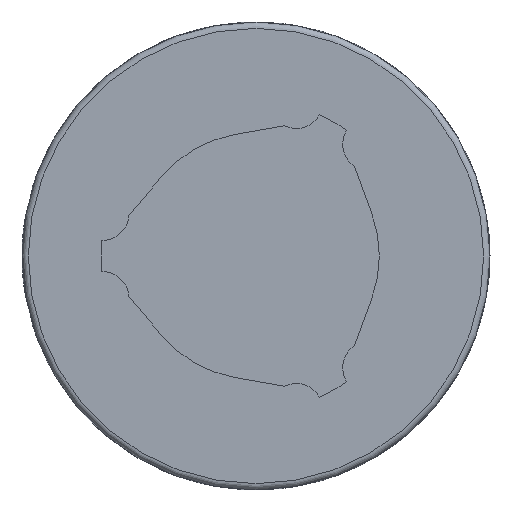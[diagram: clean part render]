
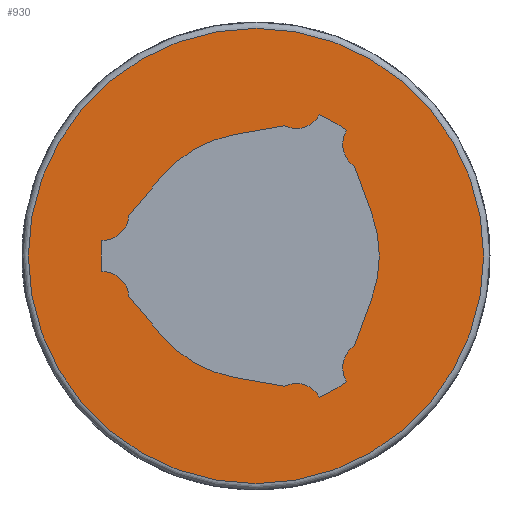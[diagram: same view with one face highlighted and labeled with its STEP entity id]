
A CAD part, left-side view. The second image highlights one B-rep face of the part: STEP entity #930.
In plain terms, the highlighted planar face has unit normal (-1, 0, 0).
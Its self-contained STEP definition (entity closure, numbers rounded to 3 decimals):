
#71=LINE('',#1439,#141);
#72=LINE('',#1448,#142);
#73=LINE('',#1452,#143);
#74=LINE('',#1460,#144);
#75=LINE('',#1464,#145);
#76=LINE('',#1472,#146);
#141=VECTOR('',#1135,1000.);
#142=VECTOR('',#1142,1000.);
#143=VECTOR('',#1145,1000.);
#144=VECTOR('',#1152,1000.);
#145=VECTOR('',#1155,1000.);
#146=VECTOR('',#1162,1000.);
#211=ORIENTED_EDGE('',*,*,#483,.F.);
#212=ORIENTED_EDGE('',*,*,#484,.T.);
#213=ORIENTED_EDGE('',*,*,#485,.F.);
#214=ORIENTED_EDGE('',*,*,#486,.T.);
#215=ORIENTED_EDGE('',*,*,#487,.F.);
#216=ORIENTED_EDGE('',*,*,#488,.T.);
#217=ORIENTED_EDGE('',*,*,#489,.T.);
#218=ORIENTED_EDGE('',*,*,#490,.T.);
#219=ORIENTED_EDGE('',*,*,#491,.F.);
#220=ORIENTED_EDGE('',*,*,#492,.T.);
#221=ORIENTED_EDGE('',*,*,#493,.F.);
#222=ORIENTED_EDGE('',*,*,#494,.T.);
#223=ORIENTED_EDGE('',*,*,#495,.T.);
#224=ORIENTED_EDGE('',*,*,#496,.T.);
#225=ORIENTED_EDGE('',*,*,#497,.F.);
#226=ORIENTED_EDGE('',*,*,#498,.T.);
#227=ORIENTED_EDGE('',*,*,#499,.F.);
#228=ORIENTED_EDGE('',*,*,#500,.T.);
#229=ORIENTED_EDGE('',*,*,#501,.T.);
#483=EDGE_CURVE('',#619,#619,#713,.T.);
#484=EDGE_CURVE('',#620,#621,#71,.T.);
#485=EDGE_CURVE('',#622,#621,#714,.T.);
#486=EDGE_CURVE('',#622,#623,#715,.T.);
#487=EDGE_CURVE('',#624,#623,#716,.T.);
#488=EDGE_CURVE('',#624,#625,#72,.T.);
#489=EDGE_CURVE('',#625,#626,#717,.T.);
#490=EDGE_CURVE('',#626,#627,#73,.T.);
#491=EDGE_CURVE('',#628,#627,#718,.T.);
#492=EDGE_CURVE('',#628,#629,#719,.T.);
#493=EDGE_CURVE('',#630,#629,#720,.T.);
#494=EDGE_CURVE('',#630,#631,#74,.T.);
#495=EDGE_CURVE('',#631,#632,#721,.T.);
#496=EDGE_CURVE('',#632,#633,#75,.T.);
#497=EDGE_CURVE('',#634,#633,#722,.T.);
#498=EDGE_CURVE('',#634,#635,#723,.T.);
#499=EDGE_CURVE('',#636,#635,#724,.T.);
#500=EDGE_CURVE('',#636,#637,#76,.T.);
#501=EDGE_CURVE('',#637,#620,#725,.T.);
#619=VERTEX_POINT('',#1438);
#620=VERTEX_POINT('',#1440);
#621=VERTEX_POINT('',#1441);
#622=VERTEX_POINT('',#1443);
#623=VERTEX_POINT('',#1445);
#624=VERTEX_POINT('',#1447);
#625=VERTEX_POINT('',#1449);
#626=VERTEX_POINT('',#1451);
#627=VERTEX_POINT('',#1453);
#628=VERTEX_POINT('',#1455);
#629=VERTEX_POINT('',#1457);
#630=VERTEX_POINT('',#1459);
#631=VERTEX_POINT('',#1461);
#632=VERTEX_POINT('',#1463);
#633=VERTEX_POINT('',#1465);
#634=VERTEX_POINT('',#1467);
#635=VERTEX_POINT('',#1469);
#636=VERTEX_POINT('',#1471);
#637=VERTEX_POINT('',#1473);
#713=CIRCLE('',#1013,18.);
#714=CIRCLE('',#1014,2.06);
#715=CIRCLE('',#1015,12.25);
#716=CIRCLE('',#1016,2.06);
#717=CIRCLE('',#1017,9.75);
#718=CIRCLE('',#1018,2.06);
#719=CIRCLE('',#1019,12.25);
#720=CIRCLE('',#1020,2.06);
#721=CIRCLE('',#1021,9.75);
#722=CIRCLE('',#1022,2.06);
#723=CIRCLE('',#1023,12.25);
#724=CIRCLE('',#1024,2.06);
#725=CIRCLE('',#1025,9.75);
#772=EDGE_LOOP('',(#211));
#773=EDGE_LOOP('',(#212,#213,#214,#215,#216,#217,#218,#219,#220,#221,#222,
#223,#224,#225,#226,#227,#228,#229));
#840=FACE_BOUND('',#772,.T.);
#841=FACE_BOUND('',#773,.T.);
#908=PLANE('',#1012);
#930=ADVANCED_FACE('',(#840,#841),#908,.F.);
#1012=AXIS2_PLACEMENT_3D('',#1436,#1131,#1132);
#1013=AXIS2_PLACEMENT_3D('',#1437,#1133,#1134);
#1014=AXIS2_PLACEMENT_3D('',#1442,#1136,#1137);
#1015=AXIS2_PLACEMENT_3D('',#1444,#1138,#1139);
#1016=AXIS2_PLACEMENT_3D('',#1446,#1140,#1141);
#1017=AXIS2_PLACEMENT_3D('',#1450,#1143,#1144);
#1018=AXIS2_PLACEMENT_3D('',#1454,#1146,#1147);
#1019=AXIS2_PLACEMENT_3D('',#1456,#1148,#1149);
#1020=AXIS2_PLACEMENT_3D('',#1458,#1150,#1151);
#1021=AXIS2_PLACEMENT_3D('',#1462,#1153,#1154);
#1022=AXIS2_PLACEMENT_3D('',#1466,#1156,#1157);
#1023=AXIS2_PLACEMENT_3D('',#1468,#1158,#1159);
#1024=AXIS2_PLACEMENT_3D('',#1470,#1160,#1161);
#1025=AXIS2_PLACEMENT_3D('',#1474,#1163,#1164);
#1131=DIRECTION('',(1.,0.,0.));
#1132=DIRECTION('',(0.,1.,0.));
#1133=DIRECTION('',(1.,0.,0.));
#1134=DIRECTION('',(0.,1.,0.));
#1135=DIRECTION('',(0.,-0.985,0.174));
#1136=DIRECTION('',(1.,0.,0.));
#1137=DIRECTION('',(0.,0.,-1.));
#1138=DIRECTION('',(1.,0.,0.));
#1139=DIRECTION('',(0.,0.,-1.));
#1140=DIRECTION('',(1.,0.,0.));
#1141=DIRECTION('',(0.,0.,-1.));
#1142=DIRECTION('',(0.,-0.342,-0.94));
#1143=DIRECTION('',(1.,0.,0.));
#1144=DIRECTION('',(0.,0.,-1.));
#1145=DIRECTION('',(0.,0.342,-0.94));
#1146=DIRECTION('',(1.,0.,0.));
#1147=DIRECTION('',(0.,0.,-1.));
#1148=DIRECTION('',(1.,0.,0.));
#1149=DIRECTION('',(0.,0.,-1.));
#1150=DIRECTION('',(1.,0.,0.));
#1151=DIRECTION('',(0.,0.,-1.));
#1152=DIRECTION('',(0.,0.985,0.174));
#1153=DIRECTION('',(1.,0.,0.));
#1154=DIRECTION('',(0.,0.,-1.));
#1155=DIRECTION('',(0.,0.643,0.766));
#1156=DIRECTION('',(1.,0.,0.));
#1157=DIRECTION('',(0.,0.,-1.));
#1158=DIRECTION('',(1.,0.,0.));
#1159=DIRECTION('',(0.,0.,-1.));
#1160=DIRECTION('',(1.,0.,0.));
#1161=DIRECTION('',(0.,0.,-1.));
#1162=DIRECTION('',(0.,-0.643,0.766));
#1163=DIRECTION('',(1.,0.,0.));
#1164=DIRECTION('',(0.,0.,-1.));
#1436=CARTESIAN_POINT('',(0.,0.,0.));
#1437=CARTESIAN_POINT('',(0.,0.,0.));
#1438=CARTESIAN_POINT('',(0.,18.,0.));
#1439=CARTESIAN_POINT('',(0.,1.693,9.602));
#1440=CARTESIAN_POINT('',(0.,1.693,9.602));
#1441=CARTESIAN_POINT('',(0.,-2.269,10.301));
#1442=CARTESIAN_POINT('',(0.,-3.198,12.139));
#1443=CARTESIAN_POINT('',(0.,-5.018,11.175));
#1444=CARTESIAN_POINT('',(0.,0.,0.));
#1445=CARTESIAN_POINT('',(0.,-7.169,9.933));
#1446=CARTESIAN_POINT('',(0.,-8.914,8.839));
#1447=CARTESIAN_POINT('',(0.,-7.786,7.115));
#1448=CARTESIAN_POINT('',(0.,-7.786,7.115));
#1449=CARTESIAN_POINT('',(0.,-9.162,3.335));
#1450=CARTESIAN_POINT('',(0.,0.,0.));
#1451=CARTESIAN_POINT('',(0.,-9.162,-3.335));
#1452=CARTESIAN_POINT('',(0.,-9.162,-3.335));
#1453=CARTESIAN_POINT('',(0.,-7.786,-7.115));
#1454=CARTESIAN_POINT('',(0.,-8.914,-8.839));
#1455=CARTESIAN_POINT('',(0.,-7.169,-9.933));
#1456=CARTESIAN_POINT('',(0.,0.,0.));
#1457=CARTESIAN_POINT('',(0.,-5.018,-11.175));
#1458=CARTESIAN_POINT('',(0.,-3.198,-12.139));
#1459=CARTESIAN_POINT('',(0.,-2.269,-10.301));
#1460=CARTESIAN_POINT('',(0.,-2.269,-10.301));
#1461=CARTESIAN_POINT('',(0.,1.693,-9.602));
#1462=CARTESIAN_POINT('',(0.,0.,0.));
#1463=CARTESIAN_POINT('',(0.,7.469,-6.267));
#1464=CARTESIAN_POINT('',(0.,7.469,-6.267));
#1465=CARTESIAN_POINT('',(0.,10.055,-3.185));
#1466=CARTESIAN_POINT('',(0.,12.112,-3.3));
#1467=CARTESIAN_POINT('',(0.,12.187,-1.242));
#1468=CARTESIAN_POINT('',(0.,0.,0.));
#1469=CARTESIAN_POINT('',(0.,12.187,1.242));
#1470=CARTESIAN_POINT('',(0.,12.112,3.3));
#1471=CARTESIAN_POINT('',(0.,10.055,3.185));
#1472=CARTESIAN_POINT('',(0.,10.055,3.185));
#1473=CARTESIAN_POINT('',(0.,7.469,6.267));
#1474=CARTESIAN_POINT('',(0.,0.,0.));
